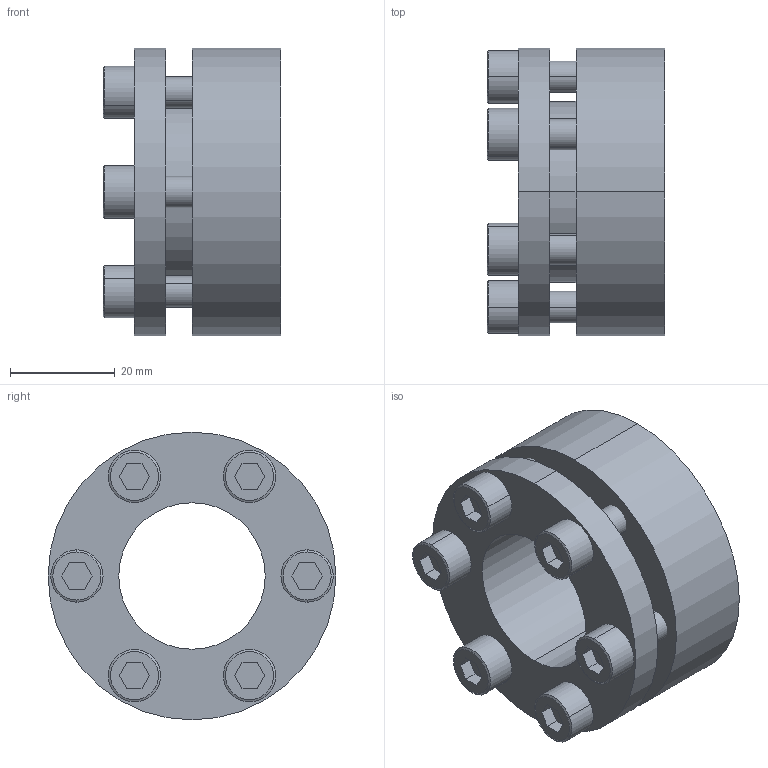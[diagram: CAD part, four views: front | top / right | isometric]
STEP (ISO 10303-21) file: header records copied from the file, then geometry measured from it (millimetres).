
FILE_DESCRIPTION (( 'STEP AP203' ), '1' );
FILE_NAME ('SDS-28.step', '2009-09-29T16:17:57', ( 'USER' ), ( 'HOME' ), 'SwSTEP 2.0', 'SolidWorks 2007', '' );
FILE_SCHEMA (( 'CONFIG_CONTROL_DESIGN' ));
Length unit declared in the file: millimetre
Products named in the file (1): SDS-28
Bounding box: 34 x 55 x 55 mm (x, y, z)
Volume: 45791.8 mm3; surface area: 19973.7 mm2
Topology: 7 solids, 7 shells, 132 faces, 300 edges, 196 vertices
Faces by surface type: plane 64, cylinder 56, cone 12
Entity records: 3849 total; most frequent: DIRECTION 690, CARTESIAN_POINT 629, ORIENTED_EDGE 600, EDGE_CURVE 300, AXIS2_PLACEMENT_3D 257, VERTEX_POINT 196, VECTOR 176, LINE 176
